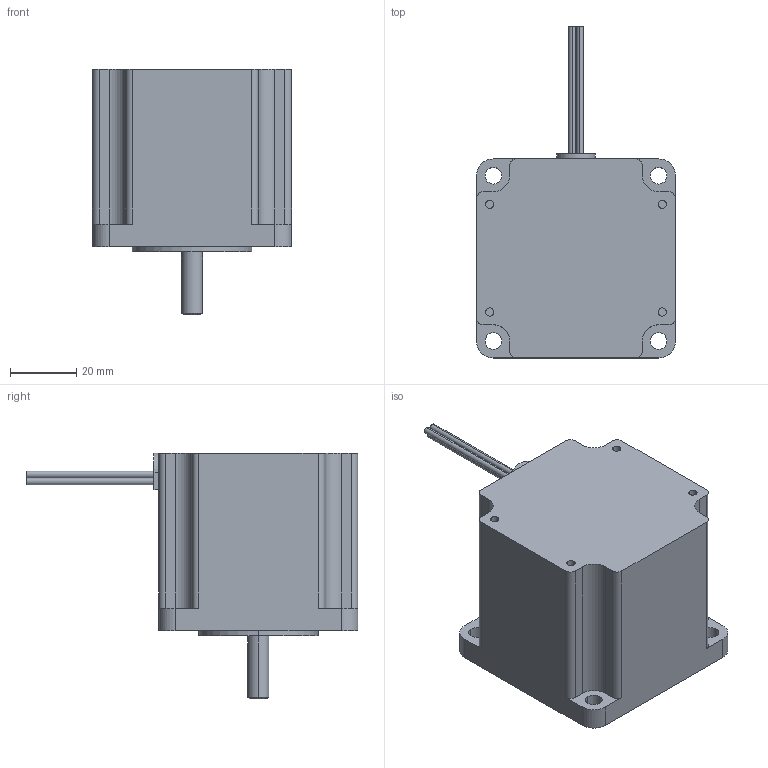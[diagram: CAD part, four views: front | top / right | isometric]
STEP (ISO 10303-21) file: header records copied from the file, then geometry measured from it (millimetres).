
FILE_DESCRIPTION((''),'2;1');
FILE_NAME('0000036050_ASM','2016-09-20T',('huanghai'),(''),'CREO PARAMETRIC BY PTC INC, 2015200','CREO PARAMETRIC BY PTC INC, 2015200','');
FILE_SCHEMA(('CONFIG_CONTROL_DESIGN'));
Length unit declared in the file: millimetre
Products named in the file (5): 000000000000_1_1_2; 1_1_14_057003_1_1_2_3; 1_2_05_130123_1_1_2_3; FL603P53-1503A_ASM_1_1_2_ASM; 0000036050_ASM
Assembly tree (7 placements, depth 3):
  0000036050_ASM
    FL603P53-1503A_ASM_1_1_2_ASM
      000000000000_1_1_2
      1_1_14_057003_1_1_2_3
      1_2_05_130123_1_1_2_3  x4
Bounding box: 60 x 100 x 74.15 mm (x, y, z)
Surface area: 30766.9 mm2 (no closed solid volume)
Topology: 0 solids, 6 shells, 307 faces, 758 edges, 482 vertices
Faces by surface type: plane 171, cylinder 110, cone 18, torus 8
Entity records: 5947 total; most frequent: DIRECTION 1068, CARTESIAN_POINT 1021, ORIENTED_EDGE 964, EDGE_CURVE 482, AXIS2_PLACEMENT_3D 392, VERTEX_POINT 317, VECTOR 284, LINE 284
